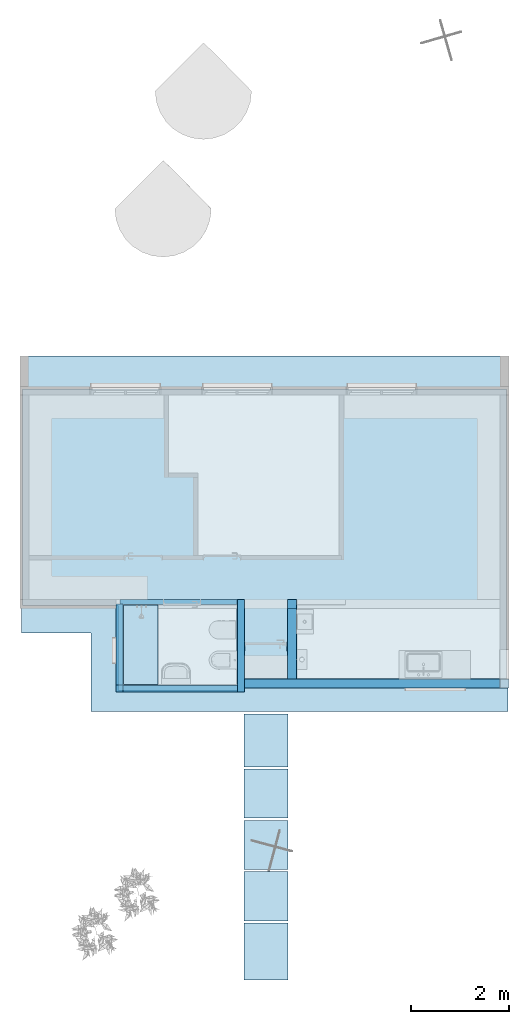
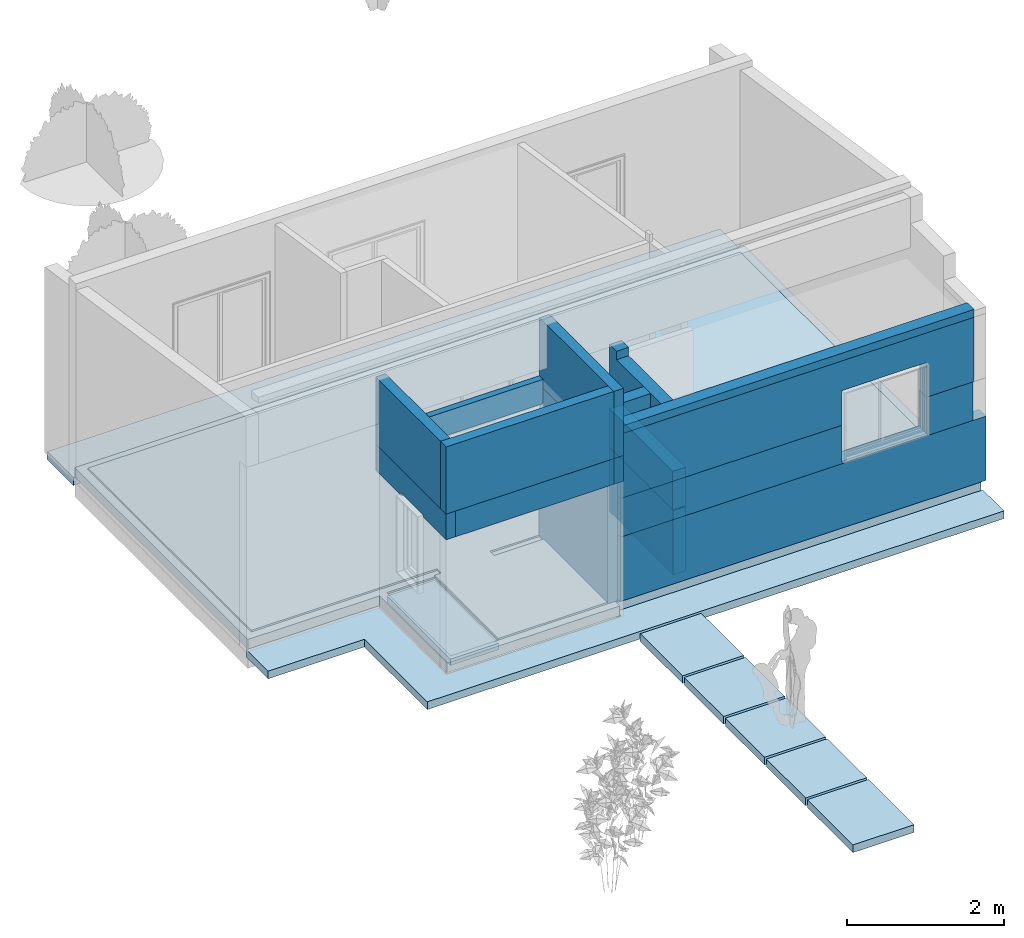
# One storey, part 1 of 10: 16 walls, 11 slabs, 7 openings.
"""IFC2X3 building model written with IfcOpenShell, lengths in metres."""

from ifc_helpers import new_model, entity, si_unit, converted_unit, derived_unit, direction, frame, frame_2d, origin, origin_2d_with_axis, place, context, subcontext, project, spatial, polyline, rectangle, outline, extrude, clip, bounded_halfspace, faceted_brep, material, layer, layer_set, layer_usage, type_object, element, save


model = new_model("IFC2X3")

# Units and contexts
model_context = context("Model", 3, precision=1e-05, world=origin(), true_north=direction((6.12303176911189e-17, 1.0)))
body_context = subcontext(model_context, "Body", "Model", "MODEL_VIEW")
ifc_project = project(units=[si_unit("LENGTHUNIT", "METRE"), si_unit("AREAUNIT", "SQUARE_METRE"), si_unit("VOLUMEUNIT", "CUBIC_METRE"), converted_unit("PLANEANGLEUNIT", "DEGREE", entity("IfcRatioMeasure", 0.0174532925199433), si_unit("PLANEANGLEUNIT", "RADIAN"), dimensions=[0, 0, 0, 0, 0, 0, 0]), si_unit("MASSUNIT", "GRAM", prefix="KILO"), derived_unit("MASSDENSITYUNIT", [(si_unit("MASSUNIT", "GRAM", prefix="KILO"), 1), (si_unit("LENGTHUNIT", "METRE"), -3)]), si_unit("TIMEUNIT", "SECOND"), si_unit("FREQUENCYUNIT", "HERTZ"), si_unit("THERMODYNAMICTEMPERATUREUNIT", "DEGREE_CELSIUS"), derived_unit("THERMALTRANSMITTANCEUNIT", [(si_unit("MASSUNIT", "GRAM", prefix="KILO"), 1), (si_unit("THERMODYNAMICTEMPERATUREUNIT", "KELVIN"), -1), (si_unit("TIMEUNIT", "SECOND"), -3)]), derived_unit("VOLUMETRICFLOWRATEUNIT", [(si_unit("LENGTHUNIT", "METRE"), 3), (si_unit("TIMEUNIT", "SECOND"), -1)]), si_unit("ELECTRICCURRENTUNIT", "AMPERE"), si_unit("ELECTRICVOLTAGEUNIT", "VOLT"), si_unit("POWERUNIT", "WATT"), si_unit("FORCEUNIT", "NEWTON", prefix="KILO"), si_unit("ILLUMINANCEUNIT", "LUX"), si_unit("LUMINOUSFLUXUNIT", "LUMEN"), si_unit("LUMINOUSINTENSITYUNIT", "CANDELA"), derived_unit("USERDEFINED", [(si_unit("MASSUNIT", "GRAM", prefix="KILO"), -1), (si_unit("LENGTHUNIT", "METRE"), -2), (si_unit("TIMEUNIT", "SECOND"), 3), (si_unit("LUMINOUSFLUXUNIT", "LUMEN"), 1)]), derived_unit("LINEARVELOCITYUNIT", [(si_unit("LENGTHUNIT", "METRE"), 1), (si_unit("TIMEUNIT", "SECOND"), -1)]), si_unit("PRESSUREUNIT", "PASCAL"), derived_unit("USERDEFINED", [(si_unit("LENGTHUNIT", "METRE"), -2), (si_unit("MASSUNIT", "GRAM", prefix="KILO"), 1), (si_unit("TIMEUNIT", "SECOND"), -2)])], contexts=[model_context])

# Site, building, storey
site_placement = place(None, origin())
site = spatial("IfcSite", under=ifc_project, at=site_placement, Name="Surface", CompositionType="ELEMENT")
building_placement = place(site_placement, origin())
building = spatial("IfcBuilding", under=site, at=building_placement, CompositionType="ELEMENT")
storey_placement = place(building_placement, origin())
storey = spatial("IfcBuildingStorey", under=building, at=storey_placement, Name="Nivel 0.0", CompositionType="ELEMENT", Elevation=0.0)

# Slabs
ifc_material_1 = material(Name="Hormigón Armado veredines")
ifc_layer_1 = layer(ifc_material_1, 0.12)
ifc_layer_set_1 = layer_set([ifc_layer_1], Name="Floor:Vereda de acceso")
ifc_layer_usage_1 = layer_usage(ifc_layer_set_1, "AXIS3", "POSITIVE", 0.0)
slab_type_1 = type_object("IfcSlabType", Name="Floor:Vereda de acceso", PredefinedType="FLOOR")
slab_1_placement = place(storey_placement, frame((-4.45239657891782, -9.37555428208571, -0.295816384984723)))
element("IfcSlab", 1, at=slab_1_placement, inside=storey, type_object=slab_type_1, material=ifc_layer_usage_1, Name="Floor:Vereda de acceso", ObjectType="Floor:Vereda de acceso", PredefinedType="FLOOR", context=body_context, shape_type="SweptSolid", body=[
    extrude(rectangle(XDim=1.08170587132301, YDim=0.899499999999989, at=frame_2d((0.0, 2.16863474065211), x_axis=(0.0, -1.0))), frame((0.449749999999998, 2.70948767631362, 0.12), z_axis=(0.0, 0.0, -1.0), x_axis=(-1.0, 0.0, 0.0)), (0.0, 0.0, 1.0), 0.12),
])
slab_type_2 = type_object("IfcSlabType", Name="Floor:Vereda de acceso", PredefinedType="FLOOR")
slab_2_placement = place(storey_placement, frame((-4.45239657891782, -9.37555428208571, -0.295816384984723)))
element("IfcSlab", 2, at=slab_2_placement, inside=storey, type_object=slab_type_2, material=ifc_layer_usage_1, Name="Floor:Vereda de acceso:2", ObjectType="Floor:Vereda de acceso", PredefinedType="FLOOR", context=body_context, shape_type="SweptSolid", body=[
    extrude(rectangle(XDim=1.00170587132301, YDim=0.899499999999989, at=frame_2d((0.0, 1.08431737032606), x_axis=(0.0, -1.0))), frame((0.449749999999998, 2.70948767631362, 0.12), z_axis=(0.0, 0.0, -1.0), x_axis=(-1.0, 0.0, 0.0)), (0.0, 0.0, 1.0), 0.12),
])
slab_type_3 = type_object("IfcSlabType", Name="Floor:Vereda de acceso", PredefinedType="FLOOR")
slab_3_placement = place(storey_placement, frame((-4.45239657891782, -9.37555428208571, -0.295816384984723)))
element("IfcSlab", 3, at=slab_3_placement, inside=storey, type_object=slab_type_3, material=ifc_layer_usage_1, Name="Floor:Vereda de acceso:3", ObjectType="Floor:Vereda de acceso", PredefinedType="FLOOR", context=body_context, shape_type="SweptSolid", body=[
    extrude(rectangle(XDim=1.00170587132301, YDim=0.899499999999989, at=frame_2d((0.0, 0.0399999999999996), x_axis=(0.0, -1.0))), frame((0.449749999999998, 2.70948767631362, 0.12), z_axis=(0.0, 0.0, -1.0), x_axis=(-1.0, 0.0, 0.0)), (0.0, 0.0, 1.0), 0.12),
])
slab_type_4 = type_object("IfcSlabType", Name="Floor:Vereda de acceso", PredefinedType="FLOOR")
slab_4_placement = place(storey_placement, frame((-4.45239657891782, -9.37555428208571, -0.295816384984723)))
element("IfcSlab", 4, at=slab_4_placement, inside=storey, type_object=slab_type_4, material=ifc_layer_usage_1, Name="Floor:Vereda de acceso:4", ObjectType="Floor:Vereda de acceso", PredefinedType="FLOOR", context=body_context, shape_type="SweptSolid", body=[
    extrude(rectangle(XDim=1.00170587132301, YDim=0.899499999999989, at=frame_2d((0.0, -1.00431737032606), x_axis=(0.0, -1.0))), frame((0.449749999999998, 2.70948767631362, 0.12), z_axis=(0.0, 0.0, -1.0), x_axis=(-1.0, 0.0, 0.0)), (0.0, 0.0, 1.0), 0.12),
])
slab_type_5 = type_object("IfcSlabType", Name="Floor:Vereda de acceso", PredefinedType="FLOOR", material=ifc_layer_set_1)
slab_5_placement = place(storey_placement, frame((-4.45239657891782, -9.37555428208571, -0.295816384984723)))
element("IfcSlab", 5, at=slab_5_placement, inside=storey, type_object=slab_type_5, material=ifc_layer_usage_1, Name="Floor:Vereda de acceso:5", ObjectType="Floor:Vereda de acceso", PredefinedType="FLOOR", context=body_context, shape_type="SweptSolid", body=[
    extrude(rectangle(XDim=1.16170587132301, YDim=0.899499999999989, at=frame_2d((0.0, -2.12863474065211), x_axis=(0.0, -1.0))), frame((0.449749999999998, 2.70948767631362, 0.12), z_axis=(0.0, 0.0, -1.0), x_axis=(-1.0, 0.0, 0.0)), (0.0, 0.0, 1.0), 0.12),
])

# Slab, opening
ifc_material_2 = material(Name="Concrete, Cast In Situ")
ifc_layer_2 = layer(ifc_material_2, 0.15)
ifc_layer_set_2 = layer_set([ifc_layer_2], Name="Floor:Platea de fundación")
ifc_layer_usage_2 = layer_usage(ifc_layer_set_2, "AXIS3", "POSITIVE", 0.0)
slab_type_6 = type_object("IfcSlabType", Name="Floor:Platea de fundación", PredefinedType="FLOOR", material=ifc_layer_set_2)
slab_6_placement = place(storey_placement, frame((-8.95308547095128, -3.48078532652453, -0.175)))
slab_6 = element("IfcSlab", 6, at=slab_6_placement, inside=storey, type_object=slab_type_6, material=ifc_layer_usage_2, Name="Floor:Platea de fundación", ObjectType="Floor:Platea de fundación", PredefinedType="FLOOR", context=body_context, shape_type="SweptSolid", body=[
    extrude(outline(polyline([(4.92400000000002, -1.34176337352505), (4.92400000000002, 3.06499999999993), (-4.92400000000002, 3.06499999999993), (-4.92400000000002, -2.96000000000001), (0.451928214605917, -2.96000000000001), (0.451928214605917, -3.06499999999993), (2.98692821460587, -3.06499999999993), (2.98692821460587, -1.34176337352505), (4.92400000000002, -1.34176337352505)])), frame((4.92400000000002, 3.06499999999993, 0.15), z_axis=(0.0, 0.0, -1.0), x_axis=(-1.0, 0.0, 0.0)), (0.0, 0.0, 1.0), 0.15),
])
opening_1_placement = place(slab_6_placement, frame((2.40565159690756, 0.928243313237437, 0.15)))
element("IfcOpeningElement", 7, at=opening_1_placement, cuts=slab_6, Name="Floor:Platea de fundación:2", ObjectType="Opening", context=body_context, shape_type="SweptSolid", body=[
    extrude(rectangle(XDim=0.702659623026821, YDim=1.62198662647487, at=origin_2d_with_axis()), frame((0.0, 0.0, 0.0), z_axis=(0.0, 0.0, -1.0), x_axis=(-1.0, 0.0, 0.0)), (0.0, 0.0, 1.0), 0.15),
])

# Slabs
ifc_layer_3 = layer(ifc_material_1, 0.12)
ifc_layer_set_3 = layer_set([ifc_layer_3], Name="Floor:Veredín perimetral")
ifc_layer_usage_3 = layer_usage(ifc_layer_set_3, "AXIS3", "POSITIVE", 0.0)
slab_type_7 = type_object("IfcSlabType", Name="Floor:Veredín perimetral", PredefinedType="FLOOR")
slab_7_placement = place(storey_placement, frame((-8.97358547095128, -3.91428532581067, -0.295)))
element("IfcSlab", 8, at=slab_7_placement, inside=storey, type_object=slab_type_7, material=ifc_layer_usage_3, Name="Floor:Veredín perimetral", ObjectType="Floor:Veredín perimetral", PredefinedType="FLOOR", context=body_context, shape_type="SweptSolid", body=[
    extrude(outline(polyline([(3.00517821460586, -1.46083207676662), (3.00517821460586, -3.1985687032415), (0.441178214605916, -3.1985687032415), (0.441178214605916, -3.07883207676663), (-4.94825000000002, -3.07883207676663), (-4.94825000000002, -3.61756870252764), (3.53317821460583, -3.61756870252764), (3.53317821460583, -2.01358207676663), (4.94825000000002, -2.01358207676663), (4.94825000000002, -1.46083207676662), (3.00517821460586, -1.46083207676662)])), frame((4.94825000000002, 3.61756870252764, 0.12), z_axis=(0.0, 0.0, -1.0), x_axis=(-1.0, 0.0, 0.0)), (0.0, 0.0, 1.0), 0.12),
])
slab_type_8 = type_object("IfcSlabType", Name="Floor:Veredín perimetral", PredefinedType="FLOOR", material=ifc_layer_set_3)
slab_8_placement = place(storey_placement, frame((-8.97358547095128, -3.91428532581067, -0.295)))
element("IfcSlab", 9, at=slab_8_placement, inside=storey, type_object=slab_type_8, material=ifc_layer_usage_3, Name="Floor:Veredín perimetral:2", ObjectType="Floor:Veredín perimetral", PredefinedType="FLOOR", context=body_context, shape_type="SweptSolid", body=[
    extrude(rectangle(XDim=0.671637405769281, YDim=9.89650000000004, at=frame_2d((0.0, 3.281749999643), x_axis=(0.0, -1.0))), frame((4.94825000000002, 3.61756870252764, 0.12), z_axis=(0.0, 0.0, -1.0), x_axis=(-1.0, 0.0, 0.0)), (0.0, 0.0, 1.0), 0.12),
])
ifc_material_3 = material(Name="Ceramic Tile")
ifc_layer_4 = layer(ifc_material_3, 0.01)
ifc_material_4 = material(Name="Concrete, Sand/Cement Screed")
ifc_layer_5 = layer(ifc_material_4, 0.015)
ifc_layer_set_4 = layer_set([ifc_layer_4, ifc_layer_5], Name="Floor:Piso Cerámico")
ifc_layer_usage_4 = layer_usage(ifc_layer_set_4, "AXIS3", "POSITIVE", 0.0)
slab_type_9 = type_object("IfcSlabType", Name="Floor:Piso Cerámico", PredefinedType="FLOOR", material=ifc_layer_set_4)
slab_9_placement = place(storey_placement, origin())
element("IfcSlab", 10, at=slab_9_placement, inside=storey, type_object=slab_type_9, material=ifc_layer_usage_4, Name="Floor:Piso Cerámico", ObjectType="Floor:Piso Cerámico", PredefinedType="FLOOR", context=body_context, shape_type="SweptSolid", body=[
    extrude(outline(polyline([(0.206255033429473, -4.21275187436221), (4.36651840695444, -4.21275187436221), (4.36651840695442, 5.37874812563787), (-1.42448159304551, 5.37874812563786), (-1.4244815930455, 1.24681991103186), (0.206255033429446, 1.24681991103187), (0.206255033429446, 1.05681991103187), (-1.5559815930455, 1.05681991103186), (-1.5559815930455, 0.157819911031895), (-0.679098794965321, 0.157819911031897), (-0.679098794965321, 0.112319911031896), (0.206255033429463, 0.112319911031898), (0.206255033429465, -0.702513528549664), (0.0987550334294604, -0.702513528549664), (0.0987550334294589, 0.0240216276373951), (-1.52323159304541, 0.0240216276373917), (-1.52323159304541, -1.57877046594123), (0.0987550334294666, -1.57877046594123), (0.0987550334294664, -1.48251352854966), (0.206255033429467, -1.48251352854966), (0.206255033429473, -4.21275187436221)])), frame((-4.61733359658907, -1.84030373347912, 0.0), z_axis=(0.0, 0.0, -1.0), x_axis=(0.0, 1.0, 0.0)), (0.0, 0.0, 1.0), 0.025),
])
ifc_layer_6 = layer(ifc_material_2, 0.1)
ifc_layer_set_5 = layer_set([ifc_layer_6], Name="Floor:Platea de fundación, receptaculo baño")
ifc_layer_usage_5 = layer_usage(ifc_layer_set_5, "AXIS3", "POSITIVE", 0.0)
slab_type_10 = type_object("IfcSlabType", Name="Floor:Platea de fundación, receptaculo baño", PredefinedType="FLOOR", material=ifc_layer_set_5)
slab_10_placement = place(storey_placement, origin())
element("IfcSlab", 11, at=slab_10_placement, inside=storey, type_object=slab_type_10, material=ifc_layer_usage_5, Name="Floor:Platea de fundación, receptaculo baño", ObjectType="Floor:Platea de fundación, receptaculo baño", PredefinedType="FLOOR", context=body_context, shape_type="SweptSolid", body=[
    extrude(rectangle(XDim=1.62198662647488, YDim=0.702659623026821, at=frame_2d((0.0, 5.55111512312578e-16), x_axis=(1.0, 0.0))), frame((-6.54743387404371, -2.5525420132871, -0.0758163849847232), z_axis=(0.0, 0.0, -1.0), x_axis=(0.0, 1.0, 0.0)), (0.0, 0.0, 1.0), 0.1),
])
ifc_layer_usage_6 = layer_usage(ifc_layer_set_4, "AXIS3", "POSITIVE", 0.0)
slab_type_11 = type_object("IfcSlabType", Name="Floor:Piso Cerámico", PredefinedType="FLOOR", material=ifc_layer_set_4)
slab_11_placement = place(storey_placement, origin())
element("IfcSlab", 12, at=slab_11_placement, inside=storey, type_object=slab_type_11, material=ifc_layer_usage_6, Name="Floor:Piso Cerámico", ObjectType="Floor:Piso Cerámico", PredefinedType="FLOOR", context=body_context, shape_type="SweptSolid", body=[
    extrude(rectangle(XDim=1.62198662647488, YDim=0.702659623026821, at=frame_2d((0.0, 5.55111512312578e-16), x_axis=(1.0, 0.0))), frame((-6.54743387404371, -2.5525420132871, -0.0508163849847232), z_axis=(0.0, 0.0, -1.0), x_axis=(0.0, 1.0, 0.0)), (0.0, 0.0, 1.0), 0.025),
])

# Wall
ifc_material_5 = material(Name="EIFS")
ifc_layer_7 = layer(ifc_material_5, 0.05)
ifc_material_6 = material(Name="Aislación hidrófuga")
ifc_layer_8 = layer(ifc_material_6, 0.005)
ifc_material_7 = material(Name="OSB")
ifc_layer_9 = layer(ifc_material_7, 0.011)
ifc_material_8 = material(Name="Bastidor metálico")
ifc_layer_10 = layer(ifc_material_8, 0.1)
ifc_material_9 = material(Name="Placa cementicia")
ifc_layer_11 = layer(ifc_material_9, 0.012)
ifc_layer_set_6 = layer_set([ifc_layer_7, ifc_layer_8, ifc_layer_9, ifc_layer_10, ifc_layer_11], Name="Basic Wall:Pe-SF-001")
ifc_layer_usage_7 = layer_usage(ifc_layer_set_6, "AXIS2", "POSITIVE", -0.089)
wall_type_1 = type_object("IfcWallType", Name="Basic Wall:Pe-SF-001", PredefinedType="STANDARD", material=ifc_layer_set_6)
wall_1_placement = place(storey_placement, frame((-4.44131196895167, -3.34154870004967, 2.6)))
element("IfcWallStandardCase", 13, at=wall_1_placement, inside=storey, type_object=wall_type_1, material=ifc_layer_usage_7, Name="Basic Wall:Pe-SF-001", ObjectType="Basic Wall:Pe-SF-001", context=body_context, shape_type="SweptSolid", body=[
    extrude(rectangle(XDim=5.20272649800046, YDim=0.178, at=frame_2d((2.60136324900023, 8.32667268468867e-17), x_axis=(-1.0, 0.0))), origin(), (0.0, 0.0, 1.0), 0.11999999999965),
])

# Wall, opening
ifc_layer_12 = layer(ifc_material_5, 0.05)
ifc_layer_13 = layer(ifc_material_6, 0.005)
ifc_layer_14 = layer(ifc_material_7, 0.011)
ifc_layer_15 = layer(ifc_material_8, 0.1)
ifc_material_10 = material(Name="Placa roca de Yeso 12,5mm")
ifc_layer_16 = layer(ifc_material_10, 0.012)
ifc_layer_set_7 = layer_set([ifc_layer_12, ifc_layer_13, ifc_layer_14, ifc_layer_15, ifc_layer_16], Name="Basic Wall:Pe-SF-002")
ifc_layer_usage_8 = layer_usage(ifc_layer_set_7, "AXIS2", "NEGATIVE", 0.089)
wall_type_2 = type_object("IfcWallType", Name="Basic Wall:Pe-SF-002", PredefinedType="STANDARD", material=ifc_layer_set_7)
wall_2_placement = place(storey_placement, frame((-4.44131196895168, -2.58940252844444, 0.0)))
wall_2 = element("IfcWallStandardCase", 14, at=wall_2_placement, inside=storey, type_object=wall_type_2, material=ifc_layer_usage_8, Name="Basic Wall:Pe-SF-002", ObjectType="Basic Wall:Pe-SF-002", context=body_context, shape_type="Clipping", body=[
    clip(extrude(rectangle(XDim=0.880798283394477, YDim=0.178, at=frame_2d((0.440399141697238, -7.63278329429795e-17), x_axis=(-1.0, 0.0))), origin(), (0.0, 0.0, 1.0), 2.46999999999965), bounded_halfspace(frame((0.0, -0.0890000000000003, 2.46999999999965)), False, frame((0.0, -0.0890000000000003, 2.46999999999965)), polyline([(0.0, 0.0), (0.880798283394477, 0.0), (0.880798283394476, 0.178), (0.0, 0.178), (0.0, 0.0)]))),
])
opening_2_placement = place(wall_2_placement, frame((0.0101773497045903, -0.0889999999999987, 0.0)))
element("IfcOpeningElement", 15, at=opening_2_placement, cuts=wall_2, Name="Puerta acceso:P1:1", ObjectType="Opening", context=body_context, shape_type="SweptSolid", body=[
    extrude(rectangle(XDim=2.09999999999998, YDim=0.85, at=frame_2d((1.04999999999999, 0.425), x_axis=(1.0, 0.0))), frame((0.0, 0.0, 0.0), z_axis=(0.0, 1.0, 0.0), x_axis=(0.0, 0.0, 1.0)), (0.0, 0.0, 1.0), 0.178),
])

# Walls
ifc_layer_usage_9 = layer_usage(ifc_layer_set_7, "AXIS2", "POSITIVE", -0.089)
wall_3_placement = place(storey_placement, frame((-3.4715136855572, -1.63404870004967, 0.0), z_axis=(0.0, 0.0, 1.0), x_axis=(0.0, -1.0, 0.0)))
element("IfcWallStandardCase", 16, at=wall_3_placement, inside=storey, type_object=wall_type_2, material=ifc_layer_usage_9, Name="Basic Wall:Pe-SF-002", ObjectType="Basic Wall:Pe-SF-002", context=body_context, shape_type="Clipping", body=[
    clip(extrude(rectangle(XDim=1.6185, YDim=0.178, at=frame_2d((0.80925, -2.77555756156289e-17), x_axis=(-1.0, 0.0))), origin(), (0.0, 0.0, 1.0), 1.0), bounded_halfspace(frame((0.0, -0.0890000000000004, 1.0), z_axis=(0.0, 0.0, -1.0), x_axis=(0.0, 1.0, 0.0)), True, frame((0.0, -0.0890000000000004, 1.0)), polyline([(0.0, 0.0), (1.6065, 0.0), (1.6185, 0.0), (1.6185, 0.178), (0.1075, 0.178), (0.0, 0.178), (0.0, 0.0)]))),
])
ifc_layer_usage_10 = layer_usage(ifc_layer_set_7, "AXIS2", "POSITIVE", -0.089)
wall_4_placement = place(storey_placement, frame((-4.44131196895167, -3.34154870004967, 0.0)))
element("IfcWallStandardCase", 17, at=wall_4_placement, inside=storey, type_object=wall_type_2, material=ifc_layer_usage_10, Name="Basic Wall:Pe-SF-002", ObjectType="Basic Wall:Pe-SF-002", context=body_context, shape_type="SweptSolid", body=[
    extrude(rectangle(XDim=5.38072649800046, YDim=0.178, at=frame_2d((2.69036324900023, -1.66533453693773e-16), x_axis=(-1.0, 0.0))), origin(), (0.0, 0.0, 1.0), 1.0),
])

# Wall, openings
ifc_layer_usage_11 = layer_usage(ifc_layer_set_7, "AXIS2", "POSITIVE", -0.089)
wall_5_placement = place(storey_placement, frame((-4.44131196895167, -3.34154870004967, 1.6)))
wall_5 = element("IfcWallStandardCase", 18, at=wall_5_placement, inside=storey, type_object=wall_type_2, material=ifc_layer_usage_11, Name="Basic Wall:Pe-SF-002", ObjectType="Basic Wall:Pe-SF-002", context=body_context, shape_type="SweptSolid", body=[
    extrude(rectangle(XDim=5.20272649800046, YDim=0.178, at=frame_2d((2.60136324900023, 8.32667268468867e-17), x_axis=(-1.0, 0.0))), origin(), (0.0, 0.0, 1.0), 0.99999999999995),
])
opening_3_placement = place(wall_5_placement, origin())
element("IfcOpeningElement", 19, at=opening_3_placement, cuts=wall_5, Name="Basic Wall:Pe-SF-002", ObjectType="Opening", context=body_context, shape_type="SweptSolid", body=[
    extrude(rectangle(XDim=1.1, YDim=1.25, at=frame_2d((0.0, -5.55111512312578e-17), x_axis=(0.0, 1.0))), frame((3.87876031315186, -1.423, -0.00999999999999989), z_axis=(0.0, 1.0, 0.0), x_axis=(-1.0, 0.0, 0.0)), (0.0, 0.0, 1.0), 3.048),
])
opening_4_placement = place(wall_5_placement, frame((3.2803434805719, -0.0940000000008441, -0.55)))
element("IfcOpeningElement", 20, at=opening_4_placement, cuts=wall_5, Name="Basic Wall:Pe-SF-002", ObjectType="Opening", context=body_context, shape_type="Brep", body=[
    faceted_brep([(1.2, 0.0, 1.04999999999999), (0.0, 0.0, 1.04999999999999), (0.0, 0.0, 0.0), (1.2, 0.0, 0.0), (1.2, 0.135000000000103, 1.05), (0.0, 0.135000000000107, 1.05), (0.0, 0.135000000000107, 0.0), (0.0124999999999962, 0.135000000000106, 0.0), (0.0124999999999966, 0.200000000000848, 0.0), (1.1875, 0.200000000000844, 0.0), (1.1875, 0.135000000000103, 0.0), (1.2, 0.135000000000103, 0.0), (0.0124999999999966, 0.200000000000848, 1.03749999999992), (1.1875, 0.200000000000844, 1.03749999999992), (0.0124999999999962, 0.135000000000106, 1.03749999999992), (1.1875, 0.135000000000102, 1.03749999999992)], [[[0, 1, 2, 3]], [[0, 4, 5, 1]], [[5, 6, 2, 1]], [[6, 7, 8, 9, 10, 11, 3, 2]], [[11, 4, 0, 3]], [[12, 13, 9, 8]], [[8, 7, 14, 12]], [[13, 15, 10, 9]], [[12, 14, 15, 13]], [[4, 11, 10, 15, 14, 7, 6, 5]]]),
])

# Walls
ifc_layer_usage_12 = layer_usage(ifc_layer_set_7, "AXIS2", "POSITIVE", -0.089)
wall_6_placement = place(storey_placement, frame((-3.4715136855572, -1.63404870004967, 1.6), z_axis=(0.0, 0.0, 1.0), x_axis=(0.0, -1.0, 0.0)))
element("IfcWallStandardCase", 21, at=wall_6_placement, inside=storey, type_object=wall_type_2, material=ifc_layer_usage_12, Name="Basic Wall:Pe-SF-002", ObjectType="Basic Wall:Pe-SF-002", context=body_context, shape_type="Clipping", body=[
    clip(extrude(rectangle(XDim=1.6185, YDim=0.178, at=frame_2d((0.80925, -2.77555756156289e-17), x_axis=(-1.0, 0.0))), origin(), (0.0, 0.0, 1.0), 0.99999999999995), bounded_halfspace(frame((0.177999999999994, -0.0890000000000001, 0.86999999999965), z_axis=(0.0, 0.0, 1.0), x_axis=(0.0, 1.0, 0.0)), False, frame((0.177999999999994, -0.0890000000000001, 0.86999999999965)), polyline([(0.0, 0.0), (0.688353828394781, 0.0), (0.866353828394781, 0.0), (1.44050000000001, 0.0), (1.44050000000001, 0.178), (0.0, 0.178), (0.0, 0.0)]))),
])
ifc_layer_17 = layer(ifc_material_10, 0.0125)
ifc_layer_18 = layer(ifc_material_8, 0.07)
ifc_layer_19 = layer(ifc_material_10, 0.0125)
ifc_layer_set_8 = layer_set([ifc_layer_17, ifc_layer_18, ifc_layer_19], Name="Basic Wall:Pi-SF-050")
ifc_layer_usage_13 = layer_usage(ifc_layer_set_8, "AXIS2", "NEGATIVE", 0.0475)
wall_type_3 = type_object("IfcWallType", Name="Basic Wall:Pi-SF-050", PredefinedType="STANDARD", material=ifc_layer_set_8)
wall_7_placement = place(storey_placement, frame((-6.97601368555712, -1.68154870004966, 2.1)))
element("IfcWallStandardCase", 22, at=wall_7_placement, inside=storey, type_object=wall_type_3, material=ifc_layer_usage_13, Name="Basic Wall:Pi-SF-050", ObjectType="Basic Wall:Pi-SF-050", context=body_context, shape_type="Clipping", body=[
    clip(clip(clip(clip(extrude(rectangle(XDim=2.38270171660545, YDim=0.0950000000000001, at=frame_2d((1.19135085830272, -3.81639164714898e-17), x_axis=(-1.0, 0.0))), origin(), (0.0, 0.0, 1.0), 0.37711071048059), bounded_halfspace(frame((0.0640000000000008, -0.0419999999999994, 0.225000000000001), z_axis=(1.0, 0.0, 0.0), x_axis=(0.0, 1.0, 0.0)), True, frame((0.0640000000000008, -0.0419999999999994, 0.225000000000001), z_axis=(1.0, 0.0, 0.0), x_axis=(0.0, 1.0, 0.0)), polyline([(0.0, 0.0), (-0.00550000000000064, 0.0), (-0.00550000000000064, -0.225000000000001), (0.0, -0.225000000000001), (0.0, 0.0)]))), bounded_halfspace(frame((0.0640000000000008, -0.0419999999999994, 0.0), z_axis=(0.0, 1.0, 0.0), x_axis=(1.0, 0.0, 0.0)), True, frame((0.0640000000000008, -0.0419999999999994, 0.0), z_axis=(0.0, 1.0, 0.0), x_axis=(1.0, 0.0, 0.0)), polyline([(0.0, 0.0), (-0.0640000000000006, 0.0), (-0.0640000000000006, -0.377110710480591), (0.00499999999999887, -0.377110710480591), (0.00499999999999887, -0.225), (0.0, -0.225000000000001), (0.0, 0.0)]))), bounded_halfspace(frame((0.0689999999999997, -0.0419999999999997, 0.225), z_axis=(1.0, 0.0, 0.0), x_axis=(0.0, 1.0, 0.0)), True, frame((0.0689999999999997, -0.0419999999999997, 0.225), z_axis=(1.0, 0.0, 0.0), x_axis=(0.0, 1.0, 0.0)), polyline([(0.0, 0.0), (0.0, 0.15211071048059), (-0.00550000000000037, 0.15211071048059), (-0.00550000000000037, 0.0), (0.0, 0.0)]))), bounded_halfspace(frame((0.0689999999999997, -0.0419999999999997, 0.225), z_axis=(0.0, 0.0, -1.0), x_axis=(1.0, 0.0, 0.0)), True, frame((0.0689999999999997, -0.0419999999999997, 0.225), z_axis=(0.0, 0.0, -1.0), x_axis=(1.0, 0.0, 0.0)), polyline([(0.0, 0.0), (0.0, 0.00550000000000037), (-0.00499999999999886, 0.00550000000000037), (-0.00499999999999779, 0.0), (0.0, 0.0)]))),
])
ifc_material_11 = material(Name="Revestimiento exterior  tipo siding")
ifc_layer_20 = layer(ifc_material_11, 0.012)
ifc_layer_21 = layer(ifc_material_6, 0.005)
ifc_layer_22 = layer(ifc_material_7, 0.011)
ifc_material_12 = material(Name="Bastidor metálico+Aislación térmica")
ifc_layer_23 = layer(ifc_material_12, 0.1)
ifc_layer_24 = layer(ifc_material_10, 0.012)
ifc_material_13 = material(Name="Revestimiento Cerámico muro")
ifc_layer_25 = layer(ifc_material_13, 0.012)
ifc_layer_set_9 = layer_set([ifc_layer_20, ifc_layer_21, ifc_layer_22, ifc_layer_23, ifc_layer_24, ifc_layer_25], Name="Basic Wall:Pe-SF-006")
ifc_layer_usage_14 = layer_usage(ifc_layer_set_9, "AXIS2", "POSITIVE", -0.076)
wall_type_4 = type_object("IfcWallType", Name="Basic Wall:Pe-SF-006", PredefinedType="STANDARD", material=ifc_layer_set_9)
wall_8_placement = place(storey_placement, frame((-4.51731196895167, -3.36478532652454, -0.025), z_axis=(0.0, 0.0, 1.0), x_axis=(0.0, 1.0, 0.0)))
element("IfcWallStandardCase", 23, at=wall_8_placement, inside=storey, type_object=wall_type_4, material=ifc_layer_usage_14, Name="Basic Wall:Pe-SF-006", ObjectType="Basic Wall:Pe-SF-006", context=body_context, shape_type="Clipping", body=[
    clip(extrude(rectangle(XDim=1.738, YDim=0.152, at=frame_2d((0.869, -1.38777878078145e-17), x_axis=(-1.0, 0.0))), origin(), (0.0, 0.0, 1.0), 1.95), bounded_halfspace(frame((1.738, -0.0759999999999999, 0.0), z_axis=(0.0, 0.0, 1.0), x_axis=(-1.0, 0.0, 0.0)), True, frame((1.738, -0.0759999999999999, 0.0), z_axis=(0.0, 0.0, 1.0), x_axis=(-1.0, 0.0, 0.0)), polyline([(0.0, 0.0), (0.0, -0.152), (1.738, -0.152000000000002), (1.738, 0.0), (0.0, 0.0)]))),
])
ifc_layer_26 = layer(ifc_material_11, 0.012)
ifc_layer_27 = layer(ifc_material_6, 0.005)
ifc_layer_28 = layer(ifc_material_7, 0.011)
ifc_layer_29 = layer(ifc_material_12, 0.1)
ifc_layer_30 = layer(ifc_material_6, 0.005)
ifc_layer_31 = layer(ifc_material_9, 0.012)
ifc_layer_set_10 = layer_set([ifc_layer_26, ifc_layer_27, ifc_layer_28, ifc_layer_29, ifc_layer_30, ifc_layer_31], Name="Basic Wall:Pe-SF-004")
ifc_layer_usage_15 = layer_usage(ifc_layer_set_10, "AXIS2", "POSITIVE", -0.0725)
wall_type_5 = type_object("IfcWallType", Name="Basic Wall:Pe-SF-004", PredefinedType="STANDARD", material=ifc_layer_set_10)
wall_9_placement = place(storey_placement, frame((-7.05201368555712, -3.44428532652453, 2.325)))
element("IfcWallStandardCase", 24, at=wall_9_placement, inside=storey, type_object=wall_type_5, material=ifc_layer_usage_15, Name="Basic Wall:Pe-SF-004", ObjectType="Basic Wall:Pe-SF-004", context=body_context, shape_type="SweptSolid", body=[
    extrude(rectangle(XDim=2.46570171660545, YDim=0.145, at=frame_2d((1.23285085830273, -1.73472347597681e-16), x_axis=(-1.0, 0.0))), origin(), (0.0, 0.0, 1.0), 1.045),
])
ifc_layer_usage_16 = layer_usage(ifc_layer_set_10, "AXIS2", "POSITIVE", -0.0725)
wall_10_placement = place(storey_placement, frame((-4.51381196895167, -3.51678532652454, 2.325), z_axis=(0.0, 0.0, 1.0), x_axis=(0.0, 1.0, 0.0)))
element("IfcWallStandardCase", 25, at=wall_10_placement, inside=storey, type_object=wall_type_5, material=ifc_layer_usage_16, Name="Basic Wall:Pe-SF-004", ObjectType="Basic Wall:Pe-SF-004", context=body_context, shape_type="SweptSolid", body=[
    extrude(rectangle(XDim=1.89, YDim=0.145, at=frame_2d((0.945, 1.11022302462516e-16), x_axis=(-1.0, 0.0))), origin(), (0.0, 0.0, 1.0), 1.045),
])
ifc_layer_usage_17 = layer_usage(ifc_layer_set_10, "AXIS2", "POSITIVE", -0.0725)
wall_11_placement = place(storey_placement, frame((-6.97951368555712, -1.72354870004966, 2.325), z_axis=(0.0, 0.0, 1.0), x_axis=(0.0, -1.0, 0.0)))
element("IfcWallStandardCase", 26, at=wall_11_placement, inside=storey, type_object=wall_type_5, material=ifc_layer_usage_17, Name="Basic Wall:Pe-SF-004", ObjectType="Basic Wall:Pe-SF-004", context=body_context, shape_type="SweptSolid", body=[
    extrude(rectangle(XDim=1.64823662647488, YDim=0.145, at=frame_2d((0.824118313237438, -3.46944695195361e-17), x_axis=(-1.0, 0.0))), origin(), (0.0, 0.0, 1.0), 1.045),
])
ifc_layer_32 = layer(ifc_material_5, 0.05)
ifc_layer_33 = layer(ifc_material_6, 0.005)
ifc_layer_34 = layer(ifc_material_7, 0.011)
ifc_layer_35 = layer(ifc_material_8, 0.1)
ifc_layer_36 = layer(ifc_material_10, 0.012)
ifc_layer_37 = layer(ifc_material_13, 0.012)
ifc_layer_set_11 = layer_set([ifc_layer_32, ifc_layer_33, ifc_layer_34, ifc_layer_35, ifc_layer_36, ifc_layer_37], Name="Basic Wall:Pe-SF-003")
ifc_layer_usage_18 = layer_usage(ifc_layer_set_11, "AXIS2", "POSITIVE", -0.095)
wall_type_6 = type_object("IfcWallType", Name="Basic Wall:Pe-SF-003", PredefinedType="STANDARD", material=ifc_layer_set_11)
wall_12_placement = place(storey_placement, frame((-3.4655136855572, -1.63404870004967, 1.0), z_axis=(0.0, 0.0, 1.0), x_axis=(0.0, -1.0, 0.0)))
element("IfcWallStandardCase", 27, at=wall_12_placement, inside=storey, type_object=wall_type_6, material=ifc_layer_usage_18, Name="Basic Wall:Pe-SF-003", ObjectType="Basic Wall:Pe-SF-003", context=body_context, shape_type="Clipping", body=[
    clip(extrude(rectangle(XDim=1.6065, YDim=0.19, at=frame_2d((0.80325, -3.46944695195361e-17), x_axis=(-1.0, 0.0))), origin(), (0.0, 0.0, 1.0), 0.6), bounded_halfspace(frame((0.0, -0.0950000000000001, 0.6), z_axis=(0.0, 0.0, -1.0), x_axis=(0.0, 1.0, 0.0)), True, frame((0.0, -0.0950000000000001, 0.6)), polyline([(0.0, 0.0), (1.6065, 0.0), (1.6065, 0.19), (0.095, 0.19), (0.0, 0.19), (0.0, 0.178), (0.0, 0.0)]))),
])

# Wall, opening
ifc_layer_usage_19 = layer_usage(ifc_layer_set_11, "AXIS2", "POSITIVE", -0.095)
wall_13_placement = place(storey_placement, frame((-4.44131196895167, -3.33554870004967, 1.0)))
wall_13 = element("IfcWallStandardCase", 28, at=wall_13_placement, inside=storey, type_object=wall_type_6, material=ifc_layer_usage_19, Name="Basic Wall:Pe-SF-003", ObjectType="Basic Wall:Pe-SF-003", context=body_context, shape_type="SweptSolid", body=[
    extrude(rectangle(XDim=5.19072649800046, YDim=0.19, at=frame_2d((2.59536324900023, 6.24500451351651e-17), x_axis=(-1.0, 0.0))), origin(), (0.0, 0.0, 1.0), 0.6),
])
opening_5_placement = place(wall_13_placement, frame((4.50376031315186, 0.0949999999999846, 0.0400000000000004)))
element("IfcOpeningElement", 29, at=opening_5_placement, cuts=wall_13, Name="Ventana1,20x1.20:V1:1", ObjectType="Opening", context=body_context, shape_type="SweptSolid", body=[
    extrude(rectangle(XDim=1.1, YDim=1.25, at=frame_2d((0.55, 0.624999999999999), x_axis=(1.0, 0.0))), frame((0.0, 0.0, 0.0), z_axis=(0.0, -1.0, 0.0), x_axis=(0.0, 0.0, 1.0)), (0.0, 0.0, 1.0), 0.19),
])

# Wall, openings
ifc_layer_38 = layer(ifc_material_11, 0.012)
ifc_layer_39 = layer(ifc_material_6, 0.005)
ifc_layer_40 = layer(ifc_material_7, 0.011)
ifc_layer_41 = layer(ifc_material_12, 0.1)
ifc_layer_42 = layer(ifc_material_10, 0.012)
ifc_layer_set_12 = layer_set([ifc_layer_38, ifc_layer_39, ifc_layer_40, ifc_layer_41, ifc_layer_42], Name="Basic Wall:Pe-SF-005")
ifc_layer_usage_20 = layer_usage(ifc_layer_set_12, "AXIS2", "POSITIVE", -0.07)
wall_type_7 = type_object("IfcWallType", Name="Basic Wall:Pe-SF-005", PredefinedType="STANDARD", material=ifc_layer_set_12)
wall_14_placement = place(storey_placement, frame((-6.98201368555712, -1.72354870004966, 1.925), z_axis=(0.0, 0.0, 1.0), x_axis=(0.0, -1.0, 0.0)))
wall_14 = element("IfcWallStandardCase", 30, at=wall_14_placement, inside=storey, type_object=wall_type_7, material=ifc_layer_usage_20, Name="Basic Wall:Pe-SF-005", ObjectType="Basic Wall:Pe-SF-005", context=body_context, shape_type="SweptSolid", body=[
    extrude(rectangle(XDim=1.79323662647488, YDim=0.140000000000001, at=frame_2d((0.896618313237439, 1.11022302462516e-16), x_axis=(-1.0, 0.0))), origin(), (0.0, 0.0, 1.0), 0.400000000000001),
])
opening_6_placement = place(wall_14_placement, origin())
element("IfcOpeningElement", 31, at=opening_6_placement, cuts=wall_14, Name="Basic Wall:Pe-SF-005", ObjectType="Opening", context=body_context, shape_type="SweptSolid", body=[
    extrude(rectangle(XDim=1.1, YDim=0.499999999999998, at=frame_2d((2.63677968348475e-16, 0.0), x_axis=(0.0, 1.0))), frame((0.934499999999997, -1.442, -0.575000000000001), z_axis=(0.0, 1.0, 0.0), x_axis=(-1.0, 0.0, 0.0)), (0.0, 0.0, 1.0), 3.048),
])
opening_7_placement = place(wall_14_placement, origin())
element("IfcOpeningElement", 32, at=opening_7_placement, cuts=wall_14, Name="Basic Wall:Pe-SF-005", ObjectType="Opening", context=body_context, shape_type="SweptSolid", body=[
    extrude(rectangle(XDim=1.2, YDim=0.549999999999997, at=frame_2d((0.0, -1.11022302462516e-16), x_axis=(0.0, 1.0))), frame((0.935677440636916, -1.442, -0.563000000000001), z_axis=(0.0, 1.0, 0.0), x_axis=(-1.0, 0.0, 0.0)), (0.0, 0.0, 1.0), 3.048),
])

# Walls
ifc_layer_usage_21 = layer_usage(ifc_layer_set_12, "AXIS2", "POSITIVE", -0.07)
wall_15_placement = place(storey_placement, frame((-4.51131196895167, -3.51678532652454, 1.925), z_axis=(0.0, 0.0, 1.0), x_axis=(0.0, 1.0, 0.0)))
element("IfcWallStandardCase", 33, at=wall_15_placement, inside=storey, type_object=wall_type_7, material=ifc_layer_usage_21, Name="Basic Wall:Pe-SF-005", ObjectType="Basic Wall:Pe-SF-005", context=body_context, shape_type="SweptSolid", body=[
    extrude(rectangle(XDim=1.89, YDim=0.14, at=frame_2d((0.945000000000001, 1.11022302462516e-16), x_axis=(-1.0, 0.0))), origin(), (0.0, 0.0, 1.0), 0.4),
])
ifc_layer_usage_22 = layer_usage(ifc_layer_set_12, "AXIS2", "POSITIVE", -0.07)
wall_16_placement = place(storey_placement, frame((-6.91201368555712, -3.44678532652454, 1.925)))
element("IfcWallStandardCase", 34, at=wall_16_placement, inside=storey, type_object=wall_type_7, material=ifc_layer_usage_22, Name="Basic Wall:Pe-SF-005", ObjectType="Basic Wall:Pe-SF-005", context=body_context, shape_type="SweptSolid", body=[
    extrude(rectangle(XDim=2.33070171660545, YDim=0.14, at=frame_2d((1.16535085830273, -1.11022302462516e-16), x_axis=(-1.0, 0.0))), origin(), (0.0, 0.0, 1.0), 0.4),
])

save(model, "model.ifc")
